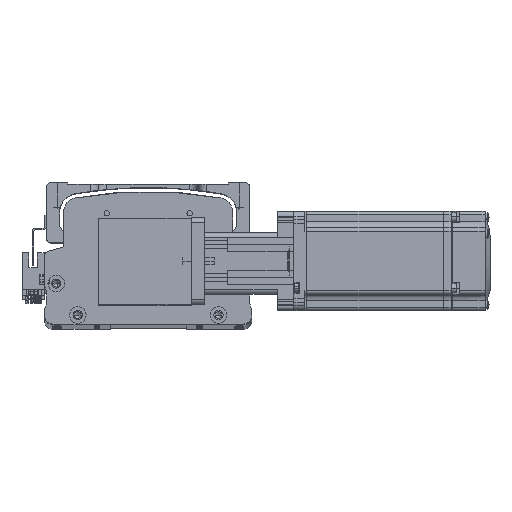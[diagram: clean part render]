
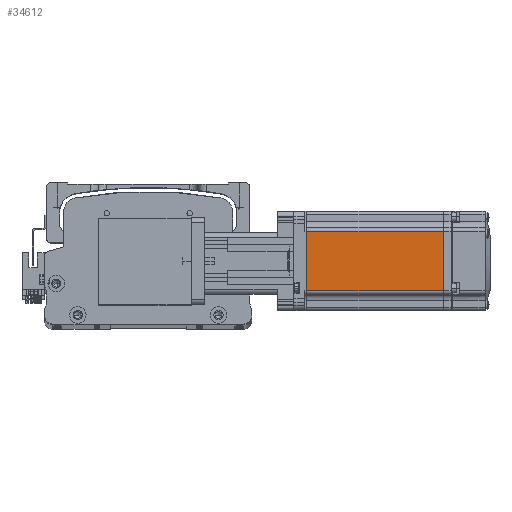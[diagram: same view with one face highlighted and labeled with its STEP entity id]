
A CAD part, top view. The second image highlights one B-rep face of the part: STEP entity #34612.
In plain terms, the highlighted planar face has unit normal (0, 0, 1) as drawn and (0, -1, 0) by its records, which use the part's own axes.
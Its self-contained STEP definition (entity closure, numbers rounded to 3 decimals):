
#2233 = DIRECTION ( 'NONE',  ( 0., 0., -1. ) ) ;
#4394 = CARTESIAN_POINT ( 'NONE',  ( -90.45, -30., 18. ) ) ;
#4444 = ORIENTED_EDGE ( 'NONE', *, *, #21575, .T. ) ;
#7270 = CARTESIAN_POINT ( 'NONE',  ( -7.75, -30., -18. ) ) ;
#7593 = CARTESIAN_POINT ( 'NONE',  ( -7.75, -30., 0. ) ) ;
#7836 = CARTESIAN_POINT ( 'NONE',  ( -90.45, -30., 0. ) ) ;
#8245 = VECTOR ( 'NONE', #12924, 1000. ) ;
#12924 = DIRECTION ( 'NONE',  ( 0., 0., -1. ) ) ;
#13372 = VECTOR ( 'NONE', #34454, 1000. ) ;
#16295 = ORIENTED_EDGE ( 'NONE', *, *, #61965, .T. ) ;
#16527 = VECTOR ( 'NONE', #2233, 1000. ) ;
#19880 = EDGE_LOOP ( 'NONE', ( #52692, #16295, #4444, #40661 ) ) ;
#20358 = PLANE ( 'NONE',  #34212 ) ;
#21575 = EDGE_CURVE ( 'NONE', #64227, #37314, #49989, .T. ) ;
#23652 = DIRECTION ( 'NONE',  ( -1., 0., 0. ) ) ;
#25674 = DIRECTION ( 'NONE',  ( 0., -1., 0. ) ) ;
#29689 = LINE ( 'NONE', #48718, #43110 ) ;
#31944 = CARTESIAN_POINT ( 'NONE',  ( -90.45, -30., -18. ) ) ;
#34212 = AXIS2_PLACEMENT_3D ( 'NONE', #55789, #25674, #60874 ) ;
#34454 = DIRECTION ( 'NONE',  ( -1., 0., 0. ) ) ;
#34612 = ADVANCED_FACE ( 'NONE', ( #53109 ), #20358, .T. ) ;
#35423 = VERTEX_POINT ( 'NONE', #60800 ) ;
#37314 = VERTEX_POINT ( 'NONE', #31944 ) ;
#40661 = ORIENTED_EDGE ( 'NONE', *, *, #41988, .F. ) ;
#40668 = VERTEX_POINT ( 'NONE', #7270 ) ;
#41988 = EDGE_CURVE ( 'NONE', #40668, #37314, #29689, .T. ) ;
#43110 = VECTOR ( 'NONE', #23652, 1000. ) ;
#43336 = LINE ( 'NONE', #7593, #16527 ) ;
#48718 = CARTESIAN_POINT ( 'NONE',  ( -6.5, -30., -18. ) ) ;
#49989 = LINE ( 'NONE', #7836, #8245 ) ;
#50258 = EDGE_CURVE ( 'NONE', #35423, #40668, #43336, .T. ) ;
#51952 = LINE ( 'NONE', #62465, #13372 ) ;
#52692 = ORIENTED_EDGE ( 'NONE', *, *, #50258, .F. ) ;
#53109 = FACE_OUTER_BOUND ( 'NONE', #19880, .T. ) ;
#55789 = CARTESIAN_POINT ( 'NONE',  ( -6.5, -30., -25. ) ) ;
#60800 = CARTESIAN_POINT ( 'NONE',  ( -7.75, -30., 18. ) ) ;
#60874 = DIRECTION ( 'NONE',  ( 0., 0., -1. ) ) ;
#61965 = EDGE_CURVE ( 'NONE', #35423, #64227, #51952, .T. ) ;
#62465 = CARTESIAN_POINT ( 'NONE',  ( -6.5, -30., 18. ) ) ;
#64227 = VERTEX_POINT ( 'NONE', #4394 ) ;
